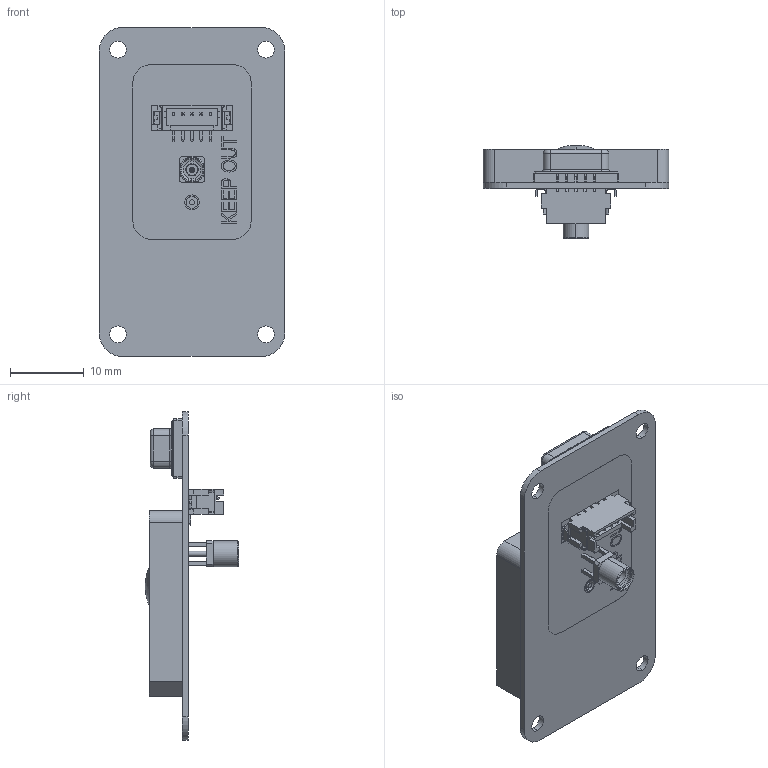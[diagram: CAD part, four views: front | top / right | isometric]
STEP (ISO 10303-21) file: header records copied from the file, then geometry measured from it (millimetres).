
FILE_DESCRIPTION (( 'STEP AP214' ), '1' );
FILE_NAME ('NSL Simplex Antenna with EHS v4.2.STEP', '2019-06-18T20:11:36', ( '' ), ( '' ), 'SwSTEP 2.0', 'SolidWorks 2014', '' );
FILE_SCHEMA (( 'AUTOMOTIVE_DESIGN' ));
Length unit declared in the file: inch
Products named in the file (2): NSL Simplex Antenna with EHS v4.2
Bounding box: 25.1 x 12.6 x 44.5 mm (x, y, z)
Volume: 3951.4 mm3; surface area: 3500 mm2
Topology: 1 solids, 5 shells, 739 faces, 1999 edges, 1279 vertices
Faces by surface type: plane 495, cylinder 173, cone 29, bspline 22, torus 20
Entity records: 27248 total; most frequent: CARTESIAN_POINT 5594, ORIENTED_EDGE 3994, DIRECTION 3761, EDGE_CURVE 1997, LINE 1511, VECTOR 1511, VERTEX_POINT 1279, AXIS2_PLACEMENT_3D 1125
